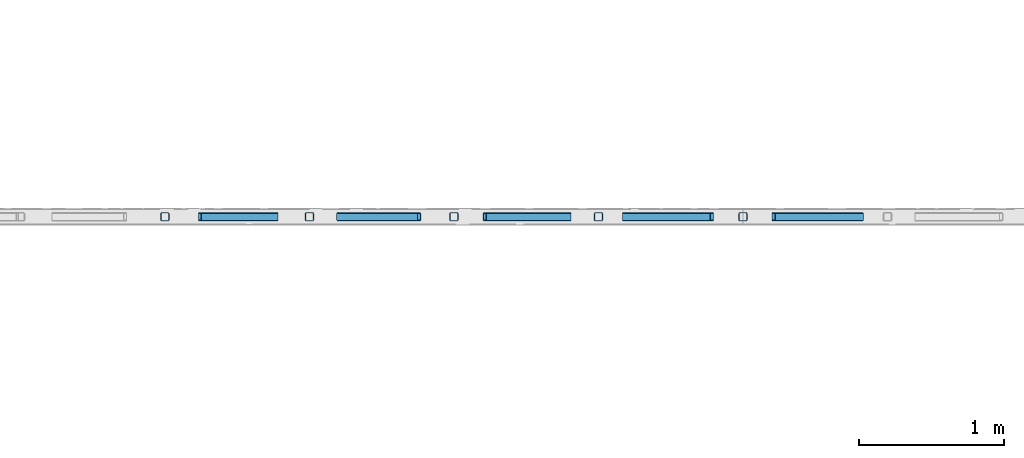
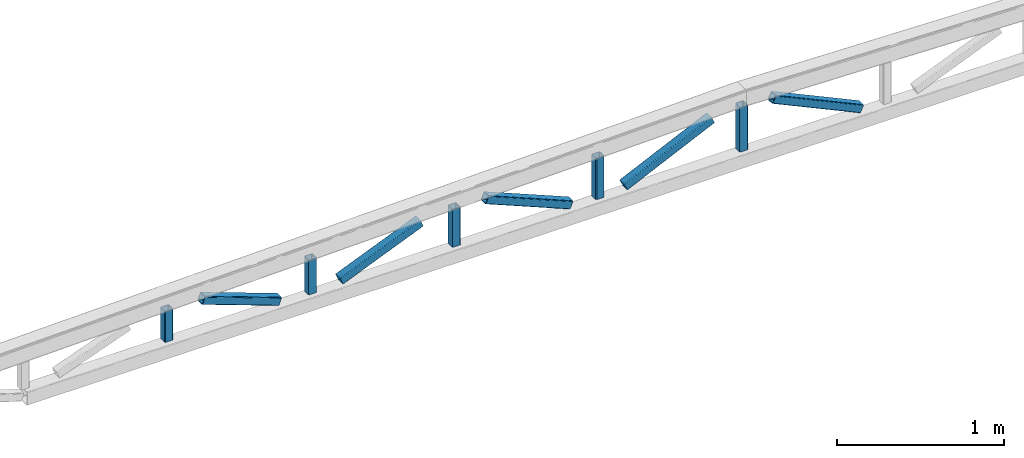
# One storey, part 6 of 12: 10 members, 1 element without a shape of its own.
"""IFC2X3 building model written with IfcOpenShell, lengths in millimetres."""

from ifc_helpers import new_model, entity, si_unit, converted_unit, derived_unit, direction, frame, frame_2d, origin, place, context, subcontext, project, spatial, polyline, circle_curve, parameter, trimmed, segment, composite_curve, outline, extrude, source, transform, mapped, type_object, type_shapes, element, aggregate, save


model = new_model("IFC2X3")

# Units and contexts
model_context = context("Model", 3, precision=0.01, world=origin(), true_north=direction((6.12303176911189e-17, 1.0)))
body_context = subcontext(model_context, "Body", "Model", "MODEL_VIEW")
ifc_project = project(units=[si_unit("LENGTHUNIT", "METRE", prefix="MILLI"), si_unit("AREAUNIT", "SQUARE_METRE"), si_unit("VOLUMEUNIT", "CUBIC_METRE"), converted_unit("PLANEANGLEUNIT", "DEGREE", entity("IfcRatioMeasure", 0.0174532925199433), si_unit("PLANEANGLEUNIT", "RADIAN"), dimensions=[0, 0, 0, 0, 0, 0, 0]), si_unit("MASSUNIT", "GRAM", prefix="KILO"), derived_unit("MASSDENSITYUNIT", [(si_unit("MASSUNIT", "GRAM", prefix="KILO"), 1), (si_unit("LENGTHUNIT", "METRE"), -3)]), si_unit("TIMEUNIT", "SECOND"), si_unit("FREQUENCYUNIT", "HERTZ"), si_unit("THERMODYNAMICTEMPERATUREUNIT", "DEGREE_CELSIUS"), derived_unit("THERMALTRANSMITTANCEUNIT", [(si_unit("MASSUNIT", "GRAM", prefix="KILO"), 1), (si_unit("THERMODYNAMICTEMPERATUREUNIT", "KELVIN"), -1), (si_unit("TIMEUNIT", "SECOND"), -3)]), derived_unit("VOLUMETRICFLOWRATEUNIT", [(si_unit("LENGTHUNIT", "METRE"), 3), (si_unit("TIMEUNIT", "SECOND"), -1)]), si_unit("ELECTRICCURRENTUNIT", "AMPERE"), si_unit("ELECTRICVOLTAGEUNIT", "VOLT"), si_unit("POWERUNIT", "WATT"), si_unit("FORCEUNIT", "NEWTON", prefix="KILO"), si_unit("ILLUMINANCEUNIT", "LUX"), si_unit("LUMINOUSFLUXUNIT", "LUMEN"), si_unit("LUMINOUSINTENSITYUNIT", "CANDELA"), derived_unit("USERDEFINED", [(si_unit("MASSUNIT", "GRAM", prefix="KILO"), -1), (si_unit("LENGTHUNIT", "METRE"), -2), (si_unit("TIMEUNIT", "SECOND"), 3), (si_unit("LUMINOUSFLUXUNIT", "LUMEN"), 1)]), derived_unit("LINEARVELOCITYUNIT", [(si_unit("LENGTHUNIT", "METRE"), 1), (si_unit("TIMEUNIT", "SECOND"), -1)]), si_unit("PRESSUREUNIT", "PASCAL"), derived_unit("USERDEFINED", [(si_unit("LENGTHUNIT", "METRE"), -2), (si_unit("MASSUNIT", "GRAM", prefix="KILO"), 1), (si_unit("TIMEUNIT", "SECOND"), -2)])], contexts=[model_context])

# Site, building, storey
site_placement = place(None, frame((0.0, 0.0, 101000.0)))
site = spatial("IfcSite", under=ifc_project, at=site_placement, Name="Default", CompositionType="ELEMENT")
building_placement = place(site_placement, origin())
building = spatial("IfcBuilding", under=site, at=building_placement, CompositionType="ELEMENT")
storey_placement = place(building_placement, frame((0.0, 0.0, 6025.0)))
storey = spatial("IfcBuildingStorey", under=building, at=storey_placement, Name="03", CompositionType="ELEMENT", Elevation=6024.9999999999)

# Assembly, members
assembly_placement = place(storey_placement, origin())
assembly = element("IfcElementAssembly", 1, at=assembly_placement, inside=storey, Name="Gitterdrager:Standard", ObjectType="Gitterdrager:Standard", AssemblyPlace="NOTDEFINED", PredefinedType="TRUSS")
member_type_1 = type_object("IfcMemberType", Name="60x60x5", PredefinedType="BRACE")
shared_shape_1 = source(origin(), body_context, "Body", "SweptSolid", [
    extrude(outline(composite_curve([segment(trimmed(circle_curve(frame_2d((-20.0, -20.0), x_axis=(1.0, 0.0)), 10.0), [parameter(180.0)], [parameter(270.0)], True, "PARAMETER"), True, "CONTINUOUS"), segment(polyline([(-20.0, -30.0), (20.0, -30.0)]), True, "CONTINUOUS"), segment(trimmed(circle_curve(frame_2d((20.0, -20.0), x_axis=(1.0, 0.0)), 10.0), [parameter(270.0)], [parameter(5.08888749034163e-14)], True, "PARAMETER"), True, "CONTINUOUS"), segment(polyline([(30.0, -20.0), (30.0, 20.0)]), True, "CONTINUOUS"), segment(trimmed(circle_curve(frame_2d((20.0, 20.0), x_axis=(1.0, 0.0)), 10.0), [parameter(360.0)], [parameter(89.9999999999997)], True, "PARAMETER"), True, "CONTINUOUS"), segment(polyline([(20.0, 30.0), (-20.0, 30.0)]), True, "CONTINUOUS"), segment(trimmed(circle_curve(frame_2d((-20.0, 20.0), x_axis=(1.0, 0.0)), 10.0), [parameter(90.0000000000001)], [parameter(180.0)], True, "PARAMETER"), True, "CONTINUOUS"), segment(polyline([(-30.0, 20.0), (-30.0, -20.0)]), True, "CONTINUOUS")], self_intersect=False), holes=[composite_curve([segment(polyline([(20.0, -25.0), (-20.0, -25.0)]), True, "CONTINUOUS"), segment(trimmed(circle_curve(frame_2d((-20.0, -20.0), x_axis=(1.0, 0.0)), 5.0), [parameter(180.0)], [parameter(270.0)], True, "PARAMETER"), False, "CONTINUOUS"), segment(polyline([(-25.0, -20.0), (-25.0, 20.0)]), True, "CONTINUOUS"), segment(trimmed(circle_curve(frame_2d((-20.0, 20.0), x_axis=(1.0, 0.0)), 5.0), [parameter(90.0000000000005)], [parameter(180.0)], True, "PARAMETER"), False, "CONTINUOUS"), segment(polyline([(-20.0, 25.0), (20.0, 25.0)]), True, "CONTINUOUS"), segment(trimmed(circle_curve(frame_2d((20.0, 20.0), x_axis=(1.0, 0.0)), 5.0), [parameter(0.0)], [parameter(90.0000000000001)], True, "PARAMETER"), False, "CONTINUOUS"), segment(polyline([(25.0, 20.0), (25.0, -20.0)]), True, "CONTINUOUS"), segment(trimmed(circle_curve(frame_2d((20.0, -20.0), x_axis=(1.0, 0.0)), 5.0), [parameter(270.0)], [parameter(4.57999874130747e-13)], True, "PARAMETER"), False, "CONTINUOUS")], self_intersect=False)]), frame((-168.190907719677, 0.0, 0.0), z_axis=(1.0, 0.0, 0.0), x_axis=(0.0, -1.0, 0.0)), (0.0, 0.0, 1.0), 324.846388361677),
])
type_shapes(member_type_1, [shared_shape_1])
member_1_placement = place(assembly_placement, frame((17226.2644969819, 32417.9507529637, -110.132847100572), z_axis=(1.0, 0.0, 0.0), x_axis=(0.0, 0.0, 1.0)))
member_1 = element("IfcMember", 2, at=member_1_placement, type_object=member_type_1, Name="Bjelke HUP:60x60x5", ObjectType="60x60x5", context=body_context, shape_type="MappedRepresentation", body=[
    mapped(shared_shape_1, transform((0.0, 0.0, 0.0), scale=1.0)),
])
member_type_2 = type_object("IfcMemberType", Name="60x60x5", PredefinedType="BRACE")
shared_shape_2 = source(origin(), body_context, "Body", "SweptSolid", [
    extrude(outline(composite_curve([segment(trimmed(circle_curve(frame_2d((-20.0, -20.0), x_axis=(1.0, 0.0)), 10.0), [parameter(180.0)], [parameter(270.0)], True, "PARAMETER"), True, "CONTINUOUS"), segment(polyline([(-20.0, -30.0), (20.0, -30.0)]), True, "CONTINUOUS"), segment(trimmed(circle_curve(frame_2d((20.0, -20.0), x_axis=(1.0, 0.0)), 10.0), [parameter(270.0)], [parameter(5.08888749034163e-14)], True, "PARAMETER"), True, "CONTINUOUS"), segment(polyline([(30.0, -20.0), (30.0, 20.0)]), True, "CONTINUOUS"), segment(trimmed(circle_curve(frame_2d((20.0, 20.0), x_axis=(1.0, 0.0)), 10.0), [parameter(360.0)], [parameter(89.9999999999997)], True, "PARAMETER"), True, "CONTINUOUS"), segment(polyline([(20.0, 30.0), (-20.0, 30.0)]), True, "CONTINUOUS"), segment(trimmed(circle_curve(frame_2d((-20.0, 20.0), x_axis=(1.0, 0.0)), 10.0), [parameter(90.0000000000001)], [parameter(180.0)], True, "PARAMETER"), True, "CONTINUOUS"), segment(polyline([(-30.0, 20.0), (-30.0, -20.0)]), True, "CONTINUOUS")], self_intersect=False), holes=[composite_curve([segment(polyline([(20.0, -25.0), (-20.0, -25.0)]), True, "CONTINUOUS"), segment(trimmed(circle_curve(frame_2d((-20.0, -20.0), x_axis=(1.0, 0.0)), 5.0), [parameter(180.0)], [parameter(270.0)], True, "PARAMETER"), False, "CONTINUOUS"), segment(polyline([(-25.0, -20.0), (-25.0, 20.0)]), True, "CONTINUOUS"), segment(trimmed(circle_curve(frame_2d((-20.0, 20.0), x_axis=(1.0, 0.0)), 5.0), [parameter(90.0000000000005)], [parameter(180.0)], True, "PARAMETER"), False, "CONTINUOUS"), segment(polyline([(-20.0, 25.0), (20.0, 25.0)]), True, "CONTINUOUS"), segment(trimmed(circle_curve(frame_2d((20.0, 20.0), x_axis=(1.0, 0.0)), 5.0), [parameter(0.0)], [parameter(90.0000000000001)], True, "PARAMETER"), False, "CONTINUOUS"), segment(polyline([(25.0, 20.0), (25.0, -20.0)]), True, "CONTINUOUS"), segment(trimmed(circle_curve(frame_2d((20.0, -20.0), x_axis=(1.0, 0.0)), 5.0), [parameter(270.0)], [parameter(4.57999874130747e-13)], True, "PARAMETER"), False, "CONTINUOUS")], self_intersect=False)]), frame((-155.792423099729, 0.0, 0.0), z_axis=(1.0, 0.0, 0.0), x_axis=(0.0, -1.0, 0.0)), (0.0, 0.0, 1.0), 300.049419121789),
])
type_shapes(member_type_2, [shared_shape_2])
member_2_placement = place(assembly_placement, frame((16232.9311636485, 32417.9507529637, -122.531331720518), z_axis=(1.0, 0.0, 0.0), x_axis=(0.0, 0.0, 1.0)))
member_2 = element("IfcMember", 3, at=member_2_placement, type_object=member_type_2, Name="Bjelke HUP:60x60x5", ObjectType="60x60x5", context=body_context, shape_type="MappedRepresentation", body=[
    mapped(shared_shape_2, transform((0.0, 0.0, 0.0), scale=1.0)),
])
member_type_3 = type_object("IfcMemberType", Name="60x60x5", PredefinedType="BRACE")
shared_shape_3 = source(origin(), body_context, "Body", "SweptSolid", [
    extrude(outline(composite_curve([segment(trimmed(circle_curve(frame_2d((-20.0, -20.0), x_axis=(1.0, 0.0)), 10.0), [parameter(180.0)], [parameter(270.0)], True, "PARAMETER"), True, "CONTINUOUS"), segment(polyline([(-20.0, -30.0), (20.0, -30.0)]), True, "CONTINUOUS"), segment(trimmed(circle_curve(frame_2d((20.0, -20.0), x_axis=(1.0, 0.0)), 10.0), [parameter(270.0)], [parameter(5.08888749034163e-14)], True, "PARAMETER"), True, "CONTINUOUS"), segment(polyline([(30.0, -20.0), (30.0, 20.0)]), True, "CONTINUOUS"), segment(trimmed(circle_curve(frame_2d((20.0, 20.0), x_axis=(1.0, 0.0)), 10.0), [parameter(360.0)], [parameter(89.9999999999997)], True, "PARAMETER"), True, "CONTINUOUS"), segment(polyline([(20.0, 30.0), (-20.0, 30.0)]), True, "CONTINUOUS"), segment(trimmed(circle_curve(frame_2d((-20.0, 20.0), x_axis=(1.0, 0.0)), 10.0), [parameter(90.0000000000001)], [parameter(180.0)], True, "PARAMETER"), True, "CONTINUOUS"), segment(polyline([(-30.0, 20.0), (-30.0, -20.0)]), True, "CONTINUOUS")], self_intersect=False), holes=[composite_curve([segment(polyline([(20.0, -25.0), (-20.0, -25.0)]), True, "CONTINUOUS"), segment(trimmed(circle_curve(frame_2d((-20.0, -20.0), x_axis=(1.0, 0.0)), 5.0), [parameter(180.0)], [parameter(270.0)], True, "PARAMETER"), False, "CONTINUOUS"), segment(polyline([(-25.0, -20.0), (-25.0, 20.0)]), True, "CONTINUOUS"), segment(trimmed(circle_curve(frame_2d((-20.0, 20.0), x_axis=(1.0, 0.0)), 5.0), [parameter(90.0000000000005)], [parameter(180.0)], True, "PARAMETER"), False, "CONTINUOUS"), segment(polyline([(-20.0, 25.0), (20.0, 25.0)]), True, "CONTINUOUS"), segment(trimmed(circle_curve(frame_2d((20.0, 20.0), x_axis=(1.0, 0.0)), 5.0), [parameter(0.0)], [parameter(90.0000000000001)], True, "PARAMETER"), False, "CONTINUOUS"), segment(polyline([(25.0, 20.0), (25.0, -20.0)]), True, "CONTINUOUS"), segment(trimmed(circle_curve(frame_2d((20.0, -20.0), x_axis=(1.0, 0.0)), 5.0), [parameter(270.0)], [parameter(4.57999874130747e-13)], True, "PARAMETER"), False, "CONTINUOUS")], self_intersect=False)]), frame((-143.393968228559, 0.0, 0.0), z_axis=(1.0, 0.0, 0.0), x_axis=(0.0, -1.0, 0.0)), (0.0, 0.0, 1.0), 275.252509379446),
])
type_shapes(member_type_3, [shared_shape_3])
member_3_placement = place(assembly_placement, frame((15239.6002137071, 32417.9507529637, -134.929786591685), z_axis=(1.0, 0.0, 0.0), x_axis=(0.0, 0.0, 1.0)))
member_3 = element("IfcMember", 4, at=member_3_placement, type_object=member_type_3, Name="Bjelke HUP:60x60x5", ObjectType="60x60x5", context=body_context, shape_type="MappedRepresentation", body=[
    mapped(shared_shape_3, transform((0.0, 0.0, 0.0), scale=1.0)),
])
member_type_4 = type_object("IfcMemberType", Name="60x60x5", PredefinedType="BRACE")
shared_shape_4 = source(origin(), body_context, "Body", "SweptSolid", [
    extrude(outline(composite_curve([segment(trimmed(circle_curve(frame_2d((-20.0, -20.0), x_axis=(1.0, 0.0)), 10.0), [parameter(180.0)], [parameter(270.0)], True, "PARAMETER"), True, "CONTINUOUS"), segment(polyline([(-20.0, -30.0), (20.0, -30.0)]), True, "CONTINUOUS"), segment(trimmed(circle_curve(frame_2d((20.0, -20.0), x_axis=(1.0, 0.0)), 10.0), [parameter(270.0)], [parameter(5.08888749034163e-14)], True, "PARAMETER"), True, "CONTINUOUS"), segment(polyline([(30.0, -20.0), (30.0, 20.0)]), True, "CONTINUOUS"), segment(trimmed(circle_curve(frame_2d((20.0, 20.0), x_axis=(1.0, 0.0)), 10.0), [parameter(360.0)], [parameter(89.9999999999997)], True, "PARAMETER"), True, "CONTINUOUS"), segment(polyline([(20.0, 30.0), (-20.0, 30.0)]), True, "CONTINUOUS"), segment(trimmed(circle_curve(frame_2d((-20.0, 20.0), x_axis=(1.0, 0.0)), 10.0), [parameter(90.0000000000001)], [parameter(180.0)], True, "PARAMETER"), True, "CONTINUOUS"), segment(polyline([(-30.0, 20.0), (-30.0, -20.0)]), True, "CONTINUOUS")], self_intersect=False), holes=[composite_curve([segment(polyline([(20.0, -25.0), (-20.0, -25.0)]), True, "CONTINUOUS"), segment(trimmed(circle_curve(frame_2d((-20.0, -20.0), x_axis=(1.0, 0.0)), 5.0), [parameter(180.0)], [parameter(270.0)], True, "PARAMETER"), False, "CONTINUOUS"), segment(polyline([(-25.0, -20.0), (-25.0, 20.0)]), True, "CONTINUOUS"), segment(trimmed(circle_curve(frame_2d((-20.0, 20.0), x_axis=(1.0, 0.0)), 5.0), [parameter(90.0000000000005)], [parameter(180.0)], True, "PARAMETER"), False, "CONTINUOUS"), segment(polyline([(-20.0, 25.0), (20.0, 25.0)]), True, "CONTINUOUS"), segment(trimmed(circle_curve(frame_2d((20.0, 20.0), x_axis=(1.0, 0.0)), 5.0), [parameter(0.0)], [parameter(90.0000000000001)], True, "PARAMETER"), False, "CONTINUOUS"), segment(polyline([(25.0, 20.0), (25.0, -20.0)]), True, "CONTINUOUS"), segment(trimmed(circle_curve(frame_2d((20.0, -20.0), x_axis=(1.0, 0.0)), 5.0), [parameter(270.0)], [parameter(4.57999874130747e-13)], True, "PARAMETER"), False, "CONTINUOUS")], self_intersect=False)]), frame((-130.995453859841, 0.0, 0.0), z_axis=(1.0, 0.0, 0.0), x_axis=(0.0, -1.0, 0.0)), (0.0, 0.0, 1.0), 250.455480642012),
])
type_shapes(member_type_4, [shared_shape_4])
member_4_placement = place(assembly_placement, frame((14246.2644969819, 32417.9507529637, -147.328300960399), z_axis=(1.0, 0.0, 0.0), x_axis=(0.0, 0.0, 1.0)))
member_4 = element("IfcMember", 5, at=member_4_placement, type_object=member_type_4, Name="Bjelke HUP:60x60x5", ObjectType="60x60x5", context=body_context, shape_type="MappedRepresentation", body=[
    mapped(shared_shape_4, transform((0.0, 0.0, 0.0), scale=1.0)),
])
member_type_5 = type_object("IfcMemberType", Name="60x60x5", PredefinedType="BRACE")
shared_shape_5 = source(origin(), body_context, "Body", "SweptSolid", [
    extrude(outline(composite_curve([segment(trimmed(circle_curve(frame_2d((-20.0, -20.0), x_axis=(1.0, 0.0)), 10.0), [parameter(180.0)], [parameter(270.0)], True, "PARAMETER"), True, "CONTINUOUS"), segment(polyline([(-20.0, -30.0), (20.0, -30.0)]), True, "CONTINUOUS"), segment(trimmed(circle_curve(frame_2d((20.0, -20.0), x_axis=(1.0, 0.0)), 10.0), [parameter(270.0)], [parameter(5.08888749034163e-14)], True, "PARAMETER"), True, "CONTINUOUS"), segment(polyline([(30.0, -20.0), (30.0, 20.0)]), True, "CONTINUOUS"), segment(trimmed(circle_curve(frame_2d((20.0, 20.0), x_axis=(1.0, 0.0)), 10.0), [parameter(360.0)], [parameter(89.9999999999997)], True, "PARAMETER"), True, "CONTINUOUS"), segment(polyline([(20.0, 30.0), (-20.0, 30.0)]), True, "CONTINUOUS"), segment(trimmed(circle_curve(frame_2d((-20.0, 20.0), x_axis=(1.0, 0.0)), 10.0), [parameter(90.0000000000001)], [parameter(180.0)], True, "PARAMETER"), True, "CONTINUOUS"), segment(polyline([(-30.0, 20.0), (-30.0, -20.0)]), True, "CONTINUOUS")], self_intersect=False), holes=[composite_curve([segment(polyline([(20.0, -25.0), (-20.0, -25.0)]), True, "CONTINUOUS"), segment(trimmed(circle_curve(frame_2d((-20.0, -20.0), x_axis=(1.0, 0.0)), 5.0), [parameter(180.0)], [parameter(270.0)], True, "PARAMETER"), False, "CONTINUOUS"), segment(polyline([(-25.0, -20.0), (-25.0, 20.0)]), True, "CONTINUOUS"), segment(trimmed(circle_curve(frame_2d((-20.0, 20.0), x_axis=(1.0, 0.0)), 5.0), [parameter(90.0000000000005)], [parameter(180.0)], True, "PARAMETER"), False, "CONTINUOUS"), segment(polyline([(-20.0, 25.0), (20.0, 25.0)]), True, "CONTINUOUS"), segment(trimmed(circle_curve(frame_2d((20.0, 20.0), x_axis=(1.0, 0.0)), 5.0), [parameter(0.0)], [parameter(90.0000000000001)], True, "PARAMETER"), False, "CONTINUOUS"), segment(polyline([(25.0, 20.0), (25.0, -20.0)]), True, "CONTINUOUS"), segment(trimmed(circle_curve(frame_2d((20.0, -20.0), x_axis=(1.0, 0.0)), 5.0), [parameter(270.0)], [parameter(4.57999874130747e-13)], True, "PARAMETER"), False, "CONTINUOUS")], self_intersect=False)]), frame((-118.596969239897, 0.0, 0.0), z_axis=(1.0, 0.0, 0.0), x_axis=(0.0, -1.0, 0.0)), (0.0, 0.0, 1.0), 225.658511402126),
])
type_shapes(member_type_5, [shared_shape_5])
member_5_placement = place(assembly_placement, frame((13252.9311636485, 32417.9507529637, -159.726785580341), z_axis=(1.0, 0.0, 0.0), x_axis=(0.0, 0.0, 1.0)))
member_5 = element("IfcMember", 6, at=member_5_placement, type_object=member_type_5, Name="Bjelke HUP:60x60x5", ObjectType="60x60x5", context=body_context, shape_type="MappedRepresentation", body=[
    mapped(shared_shape_5, transform((0.0, 0.0, 0.0), scale=1.0)),
])
member_type_6 = type_object("IfcMemberType", Name="60x60x5", PredefinedType="BRACE")
shared_shape_6 = source(origin(), body_context, "Body", "SweptSolid", [
    extrude(outline(composite_curve([segment(trimmed(circle_curve(frame_2d((-20.0, -20.0), x_axis=(1.0, 0.0)), 10.0), [parameter(180.0)], [parameter(270.0)], True, "PARAMETER"), True, "CONTINUOUS"), segment(polyline([(-20.0, -30.0), (20.0, -30.0)]), True, "CONTINUOUS"), segment(trimmed(circle_curve(frame_2d((20.0, -20.0), x_axis=(1.0, 0.0)), 10.0), [parameter(270.0)], [parameter(5.08888749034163e-14)], True, "PARAMETER"), True, "CONTINUOUS"), segment(polyline([(30.0, -20.0), (30.0, 20.0)]), True, "CONTINUOUS"), segment(trimmed(circle_curve(frame_2d((20.0, 20.0), x_axis=(1.0, 0.0)), 10.0), [parameter(360.0)], [parameter(89.9999999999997)], True, "PARAMETER"), True, "CONTINUOUS"), segment(polyline([(20.0, 30.0), (-20.0, 30.0)]), True, "CONTINUOUS"), segment(trimmed(circle_curve(frame_2d((-20.0, 20.0), x_axis=(1.0, 0.0)), 10.0), [parameter(90.0000000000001)], [parameter(180.0)], True, "PARAMETER"), True, "CONTINUOUS"), segment(polyline([(-30.0, 20.0), (-30.0, -20.0)]), True, "CONTINUOUS")], self_intersect=False), holes=[composite_curve([segment(polyline([(20.0, -25.0), (-20.0, -25.0)]), True, "CONTINUOUS"), segment(trimmed(circle_curve(frame_2d((-20.0, -20.0), x_axis=(1.0, 0.0)), 5.0), [parameter(180.0)], [parameter(270.0)], True, "PARAMETER"), False, "CONTINUOUS"), segment(polyline([(-25.0, -20.0), (-25.0, 20.0)]), True, "CONTINUOUS"), segment(trimmed(circle_curve(frame_2d((-20.0, 20.0), x_axis=(1.0, 0.0)), 5.0), [parameter(90.0000000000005)], [parameter(180.0)], True, "PARAMETER"), False, "CONTINUOUS"), segment(polyline([(-20.0, 25.0), (20.0, 25.0)]), True, "CONTINUOUS"), segment(trimmed(circle_curve(frame_2d((20.0, 20.0), x_axis=(1.0, 0.0)), 5.0), [parameter(0.0)], [parameter(90.0000000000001)], True, "PARAMETER"), False, "CONTINUOUS"), segment(polyline([(25.0, 20.0), (25.0, -20.0)]), True, "CONTINUOUS"), segment(trimmed(circle_curve(frame_2d((20.0, -20.0), x_axis=(1.0, 0.0)), 5.0), [parameter(270.0)], [parameter(4.57999874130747e-13)], True, "PARAMETER"), False, "CONTINUOUS")], self_intersect=False)]), frame((-351.247436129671, 0.0, 0.0), z_axis=(1.0, 0.0, 0.0), x_axis=(0.0, -1.0, 0.0)), (0.0, 0.0, 1.0), 664.357457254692),
])
type_shapes(member_type_6, [shared_shape_6])
member_6_placement = place(assembly_placement, frame((16728.5730107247, 32417.9507529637, -110.15843007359), z_axis=(0.422233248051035, 0.0, -0.906487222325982), x_axis=(0.906487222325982, 0.0, 0.422233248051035)))
member_6 = element("IfcMember", 7, at=member_6_placement, type_object=member_type_6, Name="Bjelke HUP:60x60x5", ObjectType="60x60x5", context=body_context, shape_type="MappedRepresentation", body=[
    mapped(shared_shape_6, transform((0.0, 0.0, 0.0), scale=1.0)),
])
member_type_7 = type_object("IfcMemberType", Name="60x60x5", PredefinedType="BRACE")
shared_shape_7 = source(origin(), body_context, "Body", "SweptSolid", [
    extrude(outline(composite_curve([segment(trimmed(circle_curve(frame_2d((-20.0, -20.0), x_axis=(1.0, 0.0)), 10.0), [parameter(180.0)], [parameter(270.0)], True, "PARAMETER"), True, "CONTINUOUS"), segment(polyline([(-20.0, -30.0), (20.0, -30.0)]), True, "CONTINUOUS"), segment(trimmed(circle_curve(frame_2d((20.0, -20.0), x_axis=(1.0, 0.0)), 10.0), [parameter(270.0)], [parameter(5.08888749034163e-14)], True, "PARAMETER"), True, "CONTINUOUS"), segment(polyline([(30.0, -20.0), (30.0, 20.0)]), True, "CONTINUOUS"), segment(trimmed(circle_curve(frame_2d((20.0, 20.0), x_axis=(1.0, 0.0)), 10.0), [parameter(360.0)], [parameter(89.9999999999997)], True, "PARAMETER"), True, "CONTINUOUS"), segment(polyline([(20.0, 30.0), (-20.0, 30.0)]), True, "CONTINUOUS"), segment(trimmed(circle_curve(frame_2d((-20.0, 20.0), x_axis=(1.0, 0.0)), 10.0), [parameter(90.0000000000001)], [parameter(180.0)], True, "PARAMETER"), True, "CONTINUOUS"), segment(polyline([(-30.0, 20.0), (-30.0, -20.0)]), True, "CONTINUOUS")], self_intersect=False), holes=[composite_curve([segment(polyline([(20.0, -25.0), (-20.0, -25.0)]), True, "CONTINUOUS"), segment(trimmed(circle_curve(frame_2d((-20.0, -20.0), x_axis=(1.0, 0.0)), 5.0), [parameter(180.0)], [parameter(270.0)], True, "PARAMETER"), False, "CONTINUOUS"), segment(polyline([(-25.0, -20.0), (-25.0, 20.0)]), True, "CONTINUOUS"), segment(trimmed(circle_curve(frame_2d((-20.0, 20.0), x_axis=(1.0, 0.0)), 5.0), [parameter(90.0000000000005)], [parameter(180.0)], True, "PARAMETER"), False, "CONTINUOUS"), segment(polyline([(-20.0, 25.0), (20.0, 25.0)]), True, "CONTINUOUS"), segment(trimmed(circle_curve(frame_2d((20.0, 20.0), x_axis=(1.0, 0.0)), 5.0), [parameter(0.0)], [parameter(90.0000000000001)], True, "PARAMETER"), False, "CONTINUOUS"), segment(polyline([(25.0, 20.0), (25.0, -20.0)]), True, "CONTINUOUS"), segment(trimmed(circle_curve(frame_2d((20.0, -20.0), x_axis=(1.0, 0.0)), 5.0), [parameter(270.0)], [parameter(4.57999874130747e-13)], True, "PARAMETER"), False, "CONTINUOUS")], self_intersect=False)]), frame((-322.27532019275, 0.0, 0.0), z_axis=(1.0, 0.0, 0.0), x_axis=(0.0, -1.0, 0.0)), (0.0, 0.0, 1.0), 600.830243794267),
])
type_shapes(member_type_7, [shared_shape_7])
member_7_placement = place(assembly_placement, frame((14742.9323553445, 32417.9507529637, -134.929786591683), z_axis=(0.383266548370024, 0.0, -0.923637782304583), x_axis=(0.923637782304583, 0.0, 0.383266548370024)))
member_7 = element("IfcMember", 8, at=member_7_placement, type_object=member_type_7, Name="Bjelke HUP:60x60x5", ObjectType="60x60x5", context=body_context, shape_type="MappedRepresentation", body=[
    mapped(shared_shape_7, transform((0.0, 0.0, 0.0), scale=1.0)),
])
member_type_8 = type_object("IfcMemberType", Name="60x60x5", PredefinedType="BRACE")
shared_shape_8 = source(origin(), body_context, "Body", "SweptSolid", [
    extrude(outline(composite_curve([segment(trimmed(circle_curve(frame_2d((-20.0, -20.0), x_axis=(1.0, 0.0)), 10.0), [parameter(180.0)], [parameter(270.0)], True, "PARAMETER"), True, "CONTINUOUS"), segment(polyline([(-20.0, -30.0), (20.0, -30.0)]), True, "CONTINUOUS"), segment(trimmed(circle_curve(frame_2d((20.0, -20.0), x_axis=(1.0, 0.0)), 10.0), [parameter(270.0)], [parameter(5.08888749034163e-14)], True, "PARAMETER"), True, "CONTINUOUS"), segment(polyline([(30.0, -20.0), (30.0, 20.0)]), True, "CONTINUOUS"), segment(trimmed(circle_curve(frame_2d((20.0, 20.0), x_axis=(1.0, 0.0)), 10.0), [parameter(360.0)], [parameter(89.9999999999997)], True, "PARAMETER"), True, "CONTINUOUS"), segment(polyline([(20.0, 30.0), (-20.0, 30.0)]), True, "CONTINUOUS"), segment(trimmed(circle_curve(frame_2d((-20.0, 20.0), x_axis=(1.0, 0.0)), 10.0), [parameter(90.0000000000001)], [parameter(180.0)], True, "PARAMETER"), True, "CONTINUOUS"), segment(polyline([(-30.0, 20.0), (-30.0, -20.0)]), True, "CONTINUOUS")], self_intersect=False), holes=[composite_curve([segment(polyline([(20.0, -25.0), (-20.0, -25.0)]), True, "CONTINUOUS"), segment(trimmed(circle_curve(frame_2d((-20.0, -20.0), x_axis=(1.0, 0.0)), 5.0), [parameter(180.0)], [parameter(270.0)], True, "PARAMETER"), False, "CONTINUOUS"), segment(polyline([(-25.0, -20.0), (-25.0, 20.0)]), True, "CONTINUOUS"), segment(trimmed(circle_curve(frame_2d((-20.0, 20.0), x_axis=(1.0, 0.0)), 5.0), [parameter(90.0000000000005)], [parameter(180.0)], True, "PARAMETER"), False, "CONTINUOUS"), segment(polyline([(-20.0, 25.0), (20.0, 25.0)]), True, "CONTINUOUS"), segment(trimmed(circle_curve(frame_2d((20.0, 20.0), x_axis=(1.0, 0.0)), 5.0), [parameter(0.0)], [parameter(90.0000000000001)], True, "PARAMETER"), False, "CONTINUOUS"), segment(polyline([(25.0, 20.0), (25.0, -20.0)]), True, "CONTINUOUS"), segment(trimmed(circle_curve(frame_2d((20.0, -20.0), x_axis=(1.0, 0.0)), 5.0), [parameter(270.0)], [parameter(4.57999874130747e-13)], True, "PARAMETER"), False, "CONTINUOUS")], self_intersect=False)]), frame((-307.939240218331, 0.0, 0.0), z_axis=(1.0, 0.0, 0.0), x_axis=(0.0, -1.0, 0.0)), (0.0, 0.0, 1.0), 630.213240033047),
])
type_shapes(member_type_8, [shared_shape_8])
member_8_placement = place(assembly_placement, frame((15736.2656886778, 32417.9507529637, -134.929786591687), z_axis=(-0.383268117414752, 0.0, -0.923637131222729), x_axis=(0.923637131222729, 0.0, -0.383268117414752)))
member_8 = element("IfcMember", 9, at=member_8_placement, type_object=member_type_8, Name="Bjelke HUP:60x60x5", ObjectType="60x60x5", context=body_context, shape_type="MappedRepresentation", body=[
    mapped(shared_shape_8, transform((0.0, 0.0, 0.0), scale=1.0)),
])
member_type_9 = type_object("IfcMemberType", Name="60x60x5", PredefinedType="BRACE")
shared_shape_9 = source(origin(), body_context, "Body", "SweptSolid", [
    extrude(outline(composite_curve([segment(trimmed(circle_curve(frame_2d((-20.0, -20.0), x_axis=(1.0, 0.0)), 10.0), [parameter(180.0)], [parameter(270.0)], True, "PARAMETER"), True, "CONTINUOUS"), segment(polyline([(-20.0, -30.0), (20.0, -30.0)]), True, "CONTINUOUS"), segment(trimmed(circle_curve(frame_2d((20.0, -20.0), x_axis=(1.0, 0.0)), 10.0), [parameter(270.0)], [parameter(5.08888749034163e-14)], True, "PARAMETER"), True, "CONTINUOUS"), segment(polyline([(30.0, -20.0), (30.0, 20.0)]), True, "CONTINUOUS"), segment(trimmed(circle_curve(frame_2d((20.0, 20.0), x_axis=(1.0, 0.0)), 10.0), [parameter(360.0)], [parameter(89.9999999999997)], True, "PARAMETER"), True, "CONTINUOUS"), segment(polyline([(20.0, 30.0), (-20.0, 30.0)]), True, "CONTINUOUS"), segment(trimmed(circle_curve(frame_2d((-20.0, 20.0), x_axis=(1.0, 0.0)), 10.0), [parameter(90.0000000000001)], [parameter(180.0)], True, "PARAMETER"), True, "CONTINUOUS"), segment(polyline([(-30.0, 20.0), (-30.0, -20.0)]), True, "CONTINUOUS")], self_intersect=False), holes=[composite_curve([segment(polyline([(20.0, -25.0), (-20.0, -25.0)]), True, "CONTINUOUS"), segment(trimmed(circle_curve(frame_2d((-20.0, -20.0), x_axis=(1.0, 0.0)), 5.0), [parameter(180.0)], [parameter(270.0)], True, "PARAMETER"), False, "CONTINUOUS"), segment(polyline([(-25.0, -20.0), (-25.0, 20.0)]), True, "CONTINUOUS"), segment(trimmed(circle_curve(frame_2d((-20.0, 20.0), x_axis=(1.0, 0.0)), 5.0), [parameter(90.0000000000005)], [parameter(180.0)], True, "PARAMETER"), False, "CONTINUOUS"), segment(polyline([(-20.0, 25.0), (20.0, 25.0)]), True, "CONTINUOUS"), segment(trimmed(circle_curve(frame_2d((20.0, 20.0), x_axis=(1.0, 0.0)), 5.0), [parameter(0.0)], [parameter(90.0000000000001)], True, "PARAMETER"), False, "CONTINUOUS"), segment(polyline([(25.0, 20.0), (25.0, -20.0)]), True, "CONTINUOUS"), segment(trimmed(circle_curve(frame_2d((20.0, -20.0), x_axis=(1.0, 0.0)), 5.0), [parameter(270.0)], [parameter(4.57999874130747e-13)], True, "PARAMETER"), False, "CONTINUOUS")], self_intersect=False)]), frame((-273.871385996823, 0.0, 0.0), z_axis=(1.0, 0.0, 0.0), x_axis=(0.0, -1.0, 0.0)), (0.0, 0.0, 1.0), 561.89082896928),
])
type_shapes(member_type_9, [shared_shape_9])
member_9_placement = place(assembly_placement, frame((13749.5978303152, 32417.9507529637, -159.726785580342), z_axis=(-0.342896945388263, 0.0, -0.939373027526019), x_axis=(0.939373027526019, 0.0, -0.342896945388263)))
member_9 = element("IfcMember", 10, at=member_9_placement, type_object=member_type_9, Name="Bjelke HUP:60x60x5", ObjectType="60x60x5", context=body_context, shape_type="MappedRepresentation", body=[
    mapped(shared_shape_9, transform((0.0, 0.0, 0.0), scale=1.0)),
])
member_type_10 = type_object("IfcMemberType", Name="60x60x5", PredefinedType="BRACE")
shared_shape_10 = source(origin(), body_context, "Body", "SweptSolid", [
    extrude(outline(composite_curve([segment(trimmed(circle_curve(frame_2d((-20.0, -20.0), x_axis=(1.0, 0.0)), 10.0), [parameter(180.0)], [parameter(270.0)], True, "PARAMETER"), True, "CONTINUOUS"), segment(polyline([(-20.0, -30.0), (20.0, -30.0)]), True, "CONTINUOUS"), segment(trimmed(circle_curve(frame_2d((20.0, -20.0), x_axis=(1.0, 0.0)), 10.0), [parameter(270.0)], [parameter(5.08888749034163e-14)], True, "PARAMETER"), True, "CONTINUOUS"), segment(polyline([(30.0, -20.0), (30.0, 20.0)]), True, "CONTINUOUS"), segment(trimmed(circle_curve(frame_2d((20.0, 20.0), x_axis=(1.0, 0.0)), 10.0), [parameter(360.0)], [parameter(89.9999999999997)], True, "PARAMETER"), True, "CONTINUOUS"), segment(polyline([(20.0, 30.0), (-20.0, 30.0)]), True, "CONTINUOUS"), segment(trimmed(circle_curve(frame_2d((-20.0, 20.0), x_axis=(1.0, 0.0)), 10.0), [parameter(90.0000000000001)], [parameter(180.0)], True, "PARAMETER"), True, "CONTINUOUS"), segment(polyline([(-30.0, 20.0), (-30.0, -20.0)]), True, "CONTINUOUS")], self_intersect=False), holes=[composite_curve([segment(polyline([(20.0, -25.0), (-20.0, -25.0)]), True, "CONTINUOUS"), segment(trimmed(circle_curve(frame_2d((-20.0, -20.0), x_axis=(1.0, 0.0)), 5.0), [parameter(180.0)], [parameter(270.0)], True, "PARAMETER"), False, "CONTINUOUS"), segment(polyline([(-25.0, -20.0), (-25.0, 20.0)]), True, "CONTINUOUS"), segment(trimmed(circle_curve(frame_2d((-20.0, 20.0), x_axis=(1.0, 0.0)), 5.0), [parameter(90.0000000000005)], [parameter(180.0)], True, "PARAMETER"), False, "CONTINUOUS"), segment(polyline([(-20.0, 25.0), (20.0, 25.0)]), True, "CONTINUOUS"), segment(trimmed(circle_curve(frame_2d((20.0, 20.0), x_axis=(1.0, 0.0)), 5.0), [parameter(0.0)], [parameter(90.0000000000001)], True, "PARAMETER"), False, "CONTINUOUS"), segment(polyline([(25.0, 20.0), (25.0, -20.0)]), True, "CONTINUOUS"), segment(trimmed(circle_curve(frame_2d((20.0, -20.0), x_axis=(1.0, 0.0)), 5.0), [parameter(270.0)], [parameter(4.57999874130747e-13)], True, "PARAMETER"), False, "CONTINUOUS")], self_intersect=False)]), frame((-314.375226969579, 0.0, 0.0), z_axis=(1.0, 0.0, 0.0), x_axis=(0.0, -1.0, 0.0)), (0.0, 0.0, 1.0), 666.812434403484),
])
type_shapes(member_type_10, [shared_shape_10])
member_10_placement = place(assembly_placement, frame((17721.906344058, 32417.9507529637, -110.158430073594), z_axis=(-0.420802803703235, 0.0, -0.907152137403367), x_axis=(0.907152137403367, 0.0, -0.420802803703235)))
member_10 = element("IfcMember", 11, at=member_10_placement, type_object=member_type_10, Name="Bjelke HUP:60x60x5", ObjectType="60x60x5", context=body_context, shape_type="MappedRepresentation", body=[
    mapped(shared_shape_10, transform((0.0, 0.0, 0.0), scale=1.0)),
])
aggregate(assembly, [member_1, member_2, member_3, member_4, member_5, member_6, member_7, member_8, member_9, member_10])

save(model, "model.ifc")
